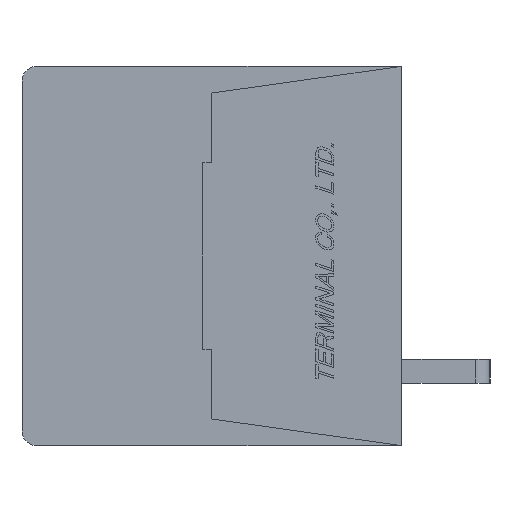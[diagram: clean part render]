
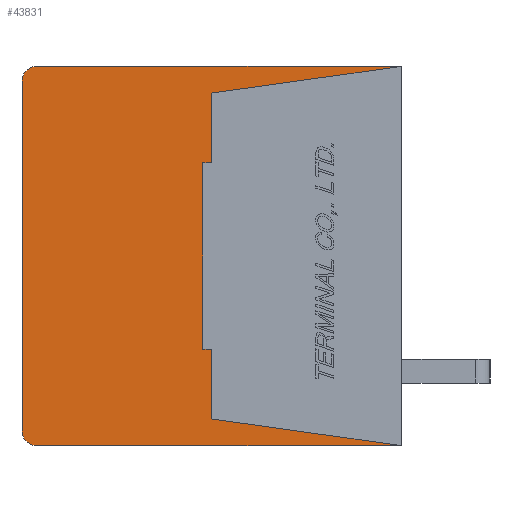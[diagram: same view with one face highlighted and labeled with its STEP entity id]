
A CAD part, left-side view. The second image highlights one B-rep face of the part: STEP entity #43831.
In plain terms, the highlighted planar face has unit normal (-1, 0, 0).
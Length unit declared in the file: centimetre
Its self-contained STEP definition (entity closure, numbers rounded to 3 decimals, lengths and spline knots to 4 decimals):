
#2250=CIRCLE('',#75025,0.05);
#2251=CIRCLE('',#75028,0.05);
#3995=VERTEX_POINT('',#61073);
#3996=VERTEX_POINT('',#61075);
#3997=VERTEX_POINT('',#61079);
#3998=VERTEX_POINT('',#61083);
#3999=VERTEX_POINT('',#61087);
#4000=VERTEX_POINT('',#61091);
#4001=VERTEX_POINT('',#61094);
#4002=VERTEX_POINT('',#61096);
#4003=VERTEX_POINT('',#61098);
#4004=VERTEX_POINT('',#61100);
#4005=VERTEX_POINT('',#61102);
#4006=VERTEX_POINT('',#61104);
#8579=VECTOR('',#50855,1.);
#8583=VECTOR('',#50864,1.);
#8586=VECTOR('',#50872,1.);
#8587=VECTOR('',#50873,1.);
#8588=VECTOR('',#50874,1.);
#8589=VECTOR('',#50875,1.);
#8590=VECTOR('',#50876,1.);
#8591=VECTOR('',#50877,1.);
#8592=VECTOR('',#50878,1.);
#8593=VECTOR('',#50879,1.);
#13733=LINE('',#61074,#8579);
#13737=LINE('',#61084,#8583);
#13740=LINE('',#61092,#8586);
#13741=LINE('',#61093,#8587);
#13742=LINE('',#61095,#8588);
#13743=LINE('',#61097,#8589);
#13744=LINE('',#61099,#8590);
#13745=LINE('',#61101,#8591);
#13746=LINE('',#61103,#8592);
#13747=LINE('',#61105,#8593);
#19511=EDGE_CURVE('',#3996,#3995,#13733,.T.);
#19514=EDGE_CURVE('',#3997,#3995,#2250,.T.);
#19516=EDGE_CURVE('',#3997,#3998,#13737,.T.);
#19518=EDGE_CURVE('',#3999,#3998,#2251,.T.);
#19520=EDGE_CURVE('',#3999,#4000,#13740,.T.);
#19521=EDGE_CURVE('',#4001,#3996,#13741,.T.);
#19522=EDGE_CURVE('',#4000,#4002,#13742,.T.);
#19523=EDGE_CURVE('',#4002,#4003,#13743,.T.);
#19524=EDGE_CURVE('',#4003,#4004,#13744,.T.);
#19525=EDGE_CURVE('',#4004,#4005,#13745,.T.);
#19526=EDGE_CURVE('',#4005,#4006,#13746,.T.);
#19527=EDGE_CURVE('',#4006,#4001,#13747,.T.);
#28335=ORIENTED_EDGE('',*,*,#19521,.T.);
#28336=ORIENTED_EDGE('',*,*,#19511,.T.);
#28337=ORIENTED_EDGE('',*,*,#19514,.F.);
#28338=ORIENTED_EDGE('',*,*,#19516,.T.);
#28339=ORIENTED_EDGE('',*,*,#19518,.F.);
#28340=ORIENTED_EDGE('',*,*,#19520,.T.);
#28341=ORIENTED_EDGE('',*,*,#19522,.T.);
#28342=ORIENTED_EDGE('',*,*,#19523,.T.);
#28343=ORIENTED_EDGE('',*,*,#19524,.T.);
#28344=ORIENTED_EDGE('',*,*,#19525,.T.);
#28345=ORIENTED_EDGE('',*,*,#19526,.T.);
#28346=ORIENTED_EDGE('',*,*,#19527,.T.);
#38179=EDGE_LOOP('',(#28335,#28336,#28337,#28338,#28339,#28340,#28341,#28342,
#28343,#28344,#28345,#28346));
#41065=FACE_BOUND('',#38179,.T.);
#43831=ADVANCED_FACE('',(#41065),#46216,.F.);
#46216=PLANE('',#75022);
#50741=DIRECTION('',(1.,0.,0.));
#50855=DIRECTION('',(0.,1.,0.));
#50860=DIRECTION('',(1.,0.,0.));
#50861=DIRECTION('',(0.,0.,-0.05));
#50864=DIRECTION('',(0.,0.,-1.));
#50868=DIRECTION('',(1.,0.,0.));
#50869=DIRECTION('',(0.,0.,-0.05));
#50872=DIRECTION('',(0.,-1.,0.));
#50873=DIRECTION('',(0.,-0.99,0.139));
#50874=DIRECTION('',(0.,0.99,0.139));
#50875=DIRECTION('',(0.,0.,1.));
#50876=DIRECTION('',(0.,1.,0.));
#50877=DIRECTION('',(0.,0.,1.));
#50878=DIRECTION('',(0.,-1.,0.));
#50879=DIRECTION('',(0.,0.,1.));
#60640=CARTESIAN_POINT('',(-0.889,0.6345,0.));
#61073=CARTESIAN_POINT('',(-0.889,1.23,0.64));
#61074=CARTESIAN_POINT('',(-0.889,0.,0.64));
#61075=CARTESIAN_POINT('',(-0.889,0.,0.64));
#61079=CARTESIAN_POINT('',(-0.889,1.28,0.59));
#61080=CARTESIAN_POINT('',(-0.889,1.23,0.59));
#61083=CARTESIAN_POINT('',(-0.889,1.28,-0.59));
#61084=CARTESIAN_POINT('',(-0.889,1.28,0.59));
#61087=CARTESIAN_POINT('',(-0.889,1.23,-0.64));
#61088=CARTESIAN_POINT('',(-0.889,1.23,-0.59));
#61091=CARTESIAN_POINT('',(-0.889,0.,-0.64));
#61092=CARTESIAN_POINT('',(-0.889,1.23,-0.64));
#61093=CARTESIAN_POINT('',(-0.889,0.64,0.55));
#61094=CARTESIAN_POINT('',(-0.889,0.64,0.55));
#61095=CARTESIAN_POINT('',(-0.889,0.,-0.64));
#61096=CARTESIAN_POINT('',(-0.889,0.64,-0.55));
#61097=CARTESIAN_POINT('',(-0.889,0.64,-0.55));
#61098=CARTESIAN_POINT('',(-0.889,0.64,-0.315));
#61099=CARTESIAN_POINT('',(-0.889,0.64,-0.315));
#61100=CARTESIAN_POINT('',(-0.889,0.67,-0.315));
#61101=CARTESIAN_POINT('',(-0.889,0.67,-0.315));
#61102=CARTESIAN_POINT('',(-0.889,0.67,0.315));
#61103=CARTESIAN_POINT('',(-0.889,0.67,0.315));
#61104=CARTESIAN_POINT('',(-0.889,0.64,0.315));
#61105=CARTESIAN_POINT('',(-0.889,0.64,0.315));
#75022=AXIS2_PLACEMENT_3D('',#60640,#50741,$);
#75025=AXIS2_PLACEMENT_3D('',#61080,#50860,#50861);
#75028=AXIS2_PLACEMENT_3D('',#61088,#50868,#50869);
